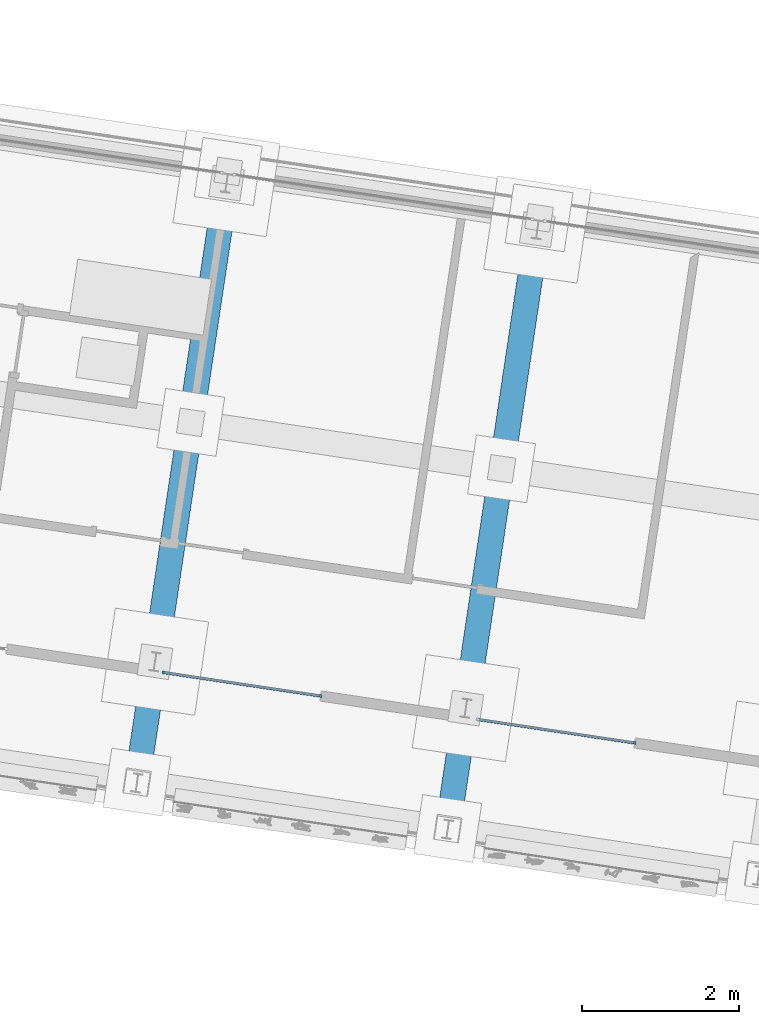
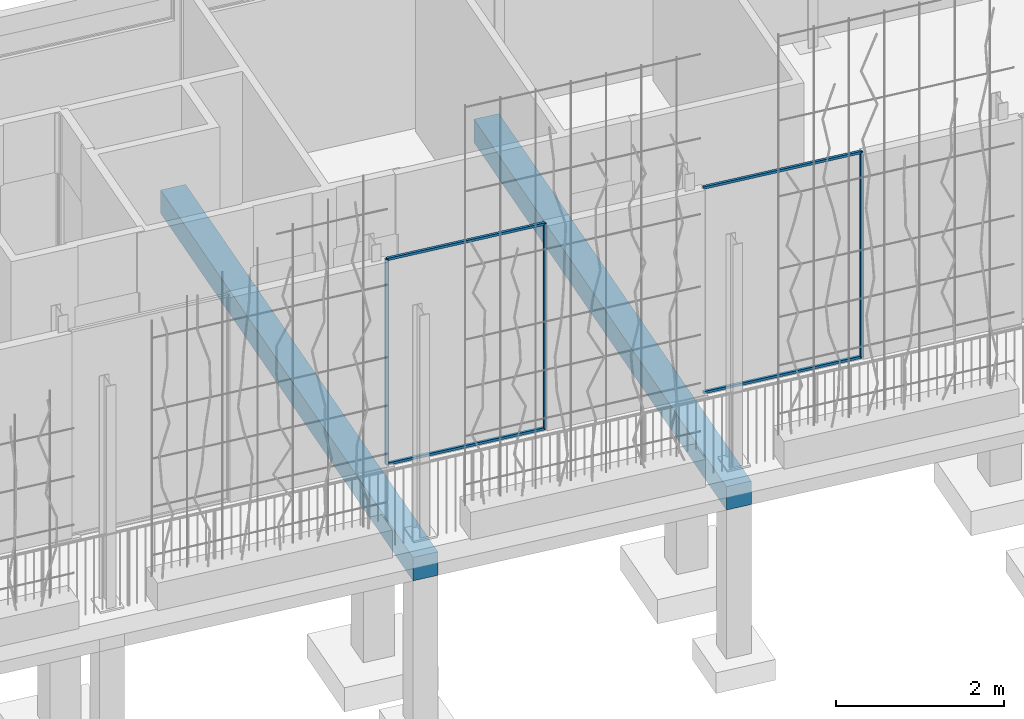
# One storey, part 83 of 143: 7 members, 2 beams, 1 element without a shape of its own.
"""IFC4 building model written with IfcOpenShell, lengths in metres."""

import ifcopenshell
import ifcopenshell.guid

model = None  # the IFC model being written
_history = None  # IfcOwnerHistory: only IFC2X3 demands one
_inside = {}  # id of a spatial element -> (the spatial element, [elements in it])
_under = {}  # id of a project, library or spatial element -> (it, [spatial elements below it])
_declared = {}  # id of a project -> (the project, [libraries it declares])
_typed = {}  # id of a type object -> (the type object, [elements of that type])
_made_of = {}  # id of a material, layer set ... -> (it, [elements and type objects made of it])


def new_model(schema):
    """Start an empty IFC model of exactly this schema.

    Asked for "IFC4X3", IfcOpenShell would pick the latest addendum, in which some entities
    have other attributes; the version numbers below select the first issue.
    IFC2X3 requires an IfcOwnerHistory on every rooted entity: one is made here for all.
    """
    global model, _history
    if schema == "IFC4X3":
        model = ifcopenshell.file(schema_version=(4, 3, 0, 0))
    else:
        model = ifcopenshell.file(schema=schema)
    _inside.clear()
    _under.clear()
    _declared.clear()
    _typed.clear()
    _made_of.clear()
    _history = None
    if model.schema == "IFC2X3":
        org = make("IfcOrganization", Name="unknown")
        user = make(
            "IfcPersonAndOrganization",
            ThePerson=make("IfcPerson", FamilyName="unknown"),
            TheOrganization=org,
        )
        app = make(
            "IfcApplication",
            ApplicationDeveloper=org,
            Version="unknown",
            ApplicationFullName="unknown",
            ApplicationIdentifier="unknown",
        )
        _history = make(
            "IfcOwnerHistory",
            OwningUser=user,
            OwningApplication=app,
            ChangeAction="ADDED",
            CreationDate=0,
        )
    return model


def make(cls, **values):
    """One entity of the class cls with the attributes given. An attribute that is None is left unset."""
    return model.create_entity(
        cls, **{name: value for name, value in values.items() if value is not None}
    )


def rooted(cls, **values):
    """An entity with a GlobalId (a new one), such as an element, a storey or a relation."""
    return make(cls, GlobalId=ifcopenshell.guid.new(), OwnerHistory=_history, **values)


def si_unit(unit_type, name, prefix=None):
    """IfcSIUnit, for example si_unit("LENGTHUNIT", "METRE", prefix="MILLI")."""
    return make("IfcSIUnit", UnitType=unit_type, Prefix=prefix, Name=name)


def assignment(units):
    """IfcUnitAssignment: the units of a project."""
    return None if units is None else make("IfcUnitAssignment", Units=units)


def point(xyz):
    """IfcCartesianPoint."""
    return None if xyz is None else make("IfcCartesianPoint", Coordinates=xyz)


def direction(xyz):
    """IfcDirection."""
    return None if xyz is None else make("IfcDirection", DirectionRatios=xyz)


def frame(location, z_axis=None, x_axis=None):
    """IfcAxis2Placement3D, a coordinate frame: its origin and axes. An axis left out is left unset."""
    return make(
        "IfcAxis2Placement3D",
        Location=point(location),
        Axis=direction(z_axis),
        RefDirection=direction(x_axis),
    )


def origin_with_axes():
    """The frame at (0, 0, 0) with the z axis (0, 0, 1) and the x axis (1, 0, 0) written out."""
    return frame((0.0, 0.0, 0.0), z_axis=(0.0, 0.0, 1.0), x_axis=(1.0, 0.0, 0.0))


def place(relative_to, where):
    """IfcLocalPlacement: puts the frame where relative to a parent placement (None: the world)."""
    return make(
        "IfcLocalPlacement", PlacementRelTo=relative_to, RelativePlacement=where
    )


def context(
    kind, dimensions, precision=None, world=None, true_north=None, identifier=None
):
    """IfcGeometricRepresentationContext, for example the 3D "Model" context."""
    return make(
        "IfcGeometricRepresentationContext",
        ContextIdentifier=identifier,
        ContextType=kind,
        CoordinateSpaceDimension=dimensions,
        Precision=precision,
        WorldCoordinateSystem=world,
        TrueNorth=true_north,
    )


def subcontext(parent, identifier, kind, view, scale=None):
    """IfcGeometricRepresentationSubContext, for example "Body" below "Model"."""
    return make(
        "IfcGeometricRepresentationSubContext",
        ContextIdentifier=identifier,
        ContextType=kind,
        ParentContext=parent,
        TargetScale=scale,
        TargetView=view,
    )


def project(units=None, contexts=None):
    """IfcProject with its units and contexts."""
    return rooted(
        "IfcProject",
        Name="project",
        RepresentationContexts=contexts,
        UnitsInContext=assignment(units),
    )


def spatial(cls, under=None, at=None, **own):
    """A site, building, storey or space (cls), placed at a placement, below another one or the project."""
    s = rooted(cls, ObjectPlacement=at, **own)
    if under is not None:
        _under.setdefault(under.id(), (under, []))[1].append(s)
    return s


def polyline(points):
    """IfcPolyline through the points."""
    return make("IfcPolyline", Points=[point(p) for p in points])


def profile(cls, at=None, kind="AREA", **sizes):
    """A parametric profile (cls). Its sizes go by their IFC names, for example OverallWidth=200.0."""
    return make(cls, ProfileType=kind, Position=at, **sizes)


def rectangle(**sizes):
    """IfcRectangleProfileDef."""
    return profile("IfcRectangleProfileDef", **sizes)


def outline(outer, holes=None, kind="AREA"):
    """IfcArbitraryClosedProfileDef: a profile drawn as a closed curve; with holes, ...WithVoids."""
    if holes is None:
        return make("IfcArbitraryClosedProfileDef", ProfileType=kind, OuterCurve=outer)
    return make(
        "IfcArbitraryProfileDefWithVoids",
        ProfileType=kind,
        OuterCurve=outer,
        InnerCurves=holes,
    )


def extrude(swept, where, along, depth):
    """IfcExtrudedAreaSolid: the profile swept, set in the frame where, extruded along a direction by depth."""
    return make(
        "IfcExtrudedAreaSolid",
        SweptArea=swept,
        Position=where,
        ExtrudedDirection=direction(along),
        Depth=depth,
    )


def shape(context_of_items, identifier, shape_type, items):
    """IfcShapeRepresentation: the items that make up one representation, for example the "Body"."""
    return make(
        "IfcShapeRepresentation",
        ContextOfItems=context_of_items,
        RepresentationIdentifier=identifier,
        RepresentationType=shape_type,
        Items=items,
    )


def material(Name=None, Category=None):
    """IfcMaterial."""
    return make("IfcMaterial", Name=Name, Category=Category)


def material_profile(
    of_material, cross_section, Name=None, Category=None, Priority=None
):
    """IfcMaterialProfile: a cross section and its material."""
    return make(
        "IfcMaterialProfile",
        Name=Name,
        Material=of_material,
        Profile=cross_section,
        Priority=Priority,
        Category=Category,
    )


def profile_set(profiles, Name=None, composite=None):
    """IfcMaterialProfileSet."""
    return make(
        "IfcMaterialProfileSet",
        Name=Name,
        MaterialProfiles=profiles,
        CompositeProfile=composite,
    )


def profile_usage(for_profile_set, cardinal=None, extent=None):
    """IfcMaterialProfileSetUsage: how a profile set lies along its element."""
    return make(
        "IfcMaterialProfileSetUsage",
        ForProfileSet=for_profile_set,
        CardinalPoint=cardinal,
        ReferenceExtent=extent,
    )


def made_of(thing, what):
    """Note that an element or type object is made of a material, layer set ...; save() writes the relation."""
    if what is not None:
        _made_of.setdefault(what.id(), (what, []))[1].append(thing)
    return thing


def type_object(cls, material=None, **own):
    """A type object (cls), such as IfcWallType, which elements share."""
    return made_of(rooted(cls, **own), material)


def element(
    cls,
    number,
    at=None,
    inside=None,
    cuts=None,
    type_object=None,
    material=None,
    context=None,
    identifier="Body",
    shape_type=None,
    held_by="IfcProductDefinitionShape",
    body=None,
    shapes=None,
    **own,
):
    """One element of the class cls, such as IfcWall. Its Tag is "e" and its number.

    at: its placement. inside: the storey or other place that contains it. cuts: it is an
    opening in that element (IfcRelVoidsElement). A single representation is given by context,
    identifier, shape_type and body (its items); several are given by shapes. held_by: the class
    of the entity that holds the representations. save() writes the other relations.
    """
    e = rooted(cls, Tag="e%d" % number, ObjectPlacement=at, **own)
    if body is not None:
        shapes = [shape(context, identifier, shape_type, body)]
    if shapes is not None:
        e.Representation = make(held_by, Representations=shapes)
    if inside is not None:
        _inside.setdefault(inside.id(), (inside, []))[1].append(e)
    if cuts is not None:
        rooted(
            "IfcRelVoidsElement", RelatingBuildingElement=cuts, RelatedOpeningElement=e
        )
    if type_object is not None:
        _typed.setdefault(type_object.id(), (type_object, []))[1].append(e)
    return made_of(e, material)


def aggregate(whole, parts):
    """IfcRelAggregates: a whole, such as a stair, and the parts it consists of."""
    return rooted("IfcRelAggregates", RelatingObject=whole, RelatedObjects=parts)


def save(model, path):
    """Write the relations noted so far, then the file.

    IfcRelAggregates (storeys below a building ...), IfcRelContainedInSpatialStructure (elements
    in a storey), IfcRelDefinesByType, IfcRelAssociatesMaterial and IfcRelDeclares: one each for
    every whole, place, type object, material and project.
    """
    for whole, parts in _under.values():
        aggregate(whole, parts)
    for where, things in _inside.values():
        rooted(
            "IfcRelContainedInSpatialStructure",
            RelatedElements=things,
            RelatingStructure=where,
        )
    for kind, things in _typed.values():
        rooted("IfcRelDefinesByType", RelatedObjects=things, RelatingType=kind)
    for what, things in _made_of.values():
        rooted("IfcRelAssociatesMaterial", RelatedObjects=things, RelatingMaterial=what)
    for by, libraries in _declared.values():
        rooted("IfcRelDeclares", RelatingContext=by, RelatedDefinitions=libraries)
    model.write(path)


model = new_model("IFC4")

# Units and contexts
model_context = context("Model", 3, precision=1e-05, world=origin_with_axes(), true_north=direction((0.0, 1.0)))
body_context = subcontext(model_context, "Body", "Model", "MODEL_VIEW")
ifc_project = project(units=[si_unit("VOLUMEUNIT", "CUBIC_METRE"), si_unit("LENGTHUNIT", "METRE"), si_unit("AREAUNIT", "SQUARE_METRE")], contexts=[model_context])

# Site, building, storey
site_placement = place(None, origin_with_axes())
site = spatial("IfcSite", under=ifc_project, at=site_placement, Name="Lares · Rua das Mercês · artigo 4771")
building_placement = place(site_placement, frame((15.0, 9.7, 15.8), z_axis=(0.0, 0.0, 1.0), x_axis=(0.989015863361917, -0.147809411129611, 0.0)))
building = spatial("IfcBuilding", under=site, at=building_placement, Name="Casa Sobreposta")
storey_placement = place(building_placement, origin_with_axes())
storey = spatial("IfcBuildingStorey", under=building, at=storey_placement, Name="00 · Habitação e estacionamento", Elevation=15.8)

# Members
ifc_material_1 = material(Name="Aço pintado / Stahl lackiert", Category="steel")
ifc_material_profile = material_profile(ifc_material_1, rectangle(XDim=0.035, YDim=0.035))
ifc_profile_set = profile_set([ifc_material_profile], Name="R0.035")
ifc_profile_usage_1 = profile_usage(ifc_profile_set)
member_type = type_object("IfcMemberType", Name="R0.035 / steel", PredefinedType="NOTDEFINED", material=ifc_profile_set)
member_1_placement = place(storey_placement, frame((12.128, 0.0, 0.0), z_axis=(0.0, 0.0, 1.0), x_axis=(1.0, 0.0, 0.0)))
element("IfcMember", 1, at=member_1_placement, inside=storey, type_object=member_type, material=ifc_profile_usage_1, Name="Folha de correr sul 6 · montante", context=body_context, shape_type="SweptSolid", body=[
    extrude(rectangle(XDim=0.035, YDim=0.035), origin_with_axes(), (0.0, 0.0, 1.0), 2.968),
])
ifc_profile_usage_2 = profile_usage(ifc_profile_set)
member_2_placement = place(storey_placement, frame((14.1493333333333, 0.0, 0.0), z_axis=(0.0, 0.0, 1.0), x_axis=(1.0, 0.0, 0.0)))
element("IfcMember", 2, at=member_2_placement, inside=storey, type_object=member_type, material=ifc_profile_usage_2, Name="Folha de correr sul 6 · montante", context=body_context, shape_type="SweptSolid", body=[
    extrude(rectangle(XDim=0.035, YDim=0.035), origin_with_axes(), (0.0, 0.0, 1.0), 2.968),
])
ifc_profile_usage_3 = profile_usage(ifc_profile_set)
member_3_placement = place(storey_placement, frame((12.128, 0.0, 0.0), z_axis=(1.0, 0.0, 0.0), x_axis=(0.0, -1.0, 0.0)))
element("IfcMember", 3, at=member_3_placement, inside=storey, type_object=member_type, material=ifc_profile_usage_3, Name="Folha de correr sul 6 · travessa", context=body_context, shape_type="SweptSolid", body=[
    extrude(rectangle(XDim=0.035, YDim=0.035), origin_with_axes(), (0.0, 0.0, 1.0), 2.02133333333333),
])
ifc_profile_usage_4 = profile_usage(ifc_profile_set)
member_4_placement = place(storey_placement, frame((12.128, 0.0, 2.968), z_axis=(1.0, 0.0, 0.0), x_axis=(0.0, -1.0, 0.0)))
element("IfcMember", 4, at=member_4_placement, inside=storey, type_object=member_type, material=ifc_profile_usage_4, Name="Folha de correr sul 6 · travessa", context=body_context, shape_type="SweptSolid", body=[
    extrude(rectangle(XDim=0.035, YDim=0.035), origin_with_axes(), (0.0, 0.0, 1.0), 2.02133333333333),
])
ifc_profile_usage_5 = profile_usage(ifc_profile_set)
member_5_placement = place(storey_placement, frame((18.192, 0.0, 0.0), z_axis=(0.0, 0.0, 1.0), x_axis=(1.0, 0.0, 0.0)))
element("IfcMember", 5, at=member_5_placement, inside=storey, type_object=member_type, material=ifc_profile_usage_5, Name="Folha de correr sul 8 · montante", context=body_context, shape_type="SweptSolid", body=[
    extrude(rectangle(XDim=0.035, YDim=0.035), origin_with_axes(), (0.0, 0.0, 1.0), 2.968),
])
ifc_profile_usage_6 = profile_usage(ifc_profile_set)
member_6_placement = place(storey_placement, frame((16.1706666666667, 0.0, 0.0), z_axis=(1.0, 0.0, 0.0), x_axis=(0.0, -1.0, 0.0)))
element("IfcMember", 6, at=member_6_placement, inside=storey, type_object=member_type, material=ifc_profile_usage_6, Name="Folha de correr sul 8 · travessa", context=body_context, shape_type="SweptSolid", body=[
    extrude(rectangle(XDim=0.035, YDim=0.035), origin_with_axes(), (0.0, 0.0, 1.0), 2.02133333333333),
])
ifc_profile_usage_7 = profile_usage(ifc_profile_set)
member_7_placement = place(storey_placement, frame((16.1706666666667, 0.0, 2.968), z_axis=(1.0, 0.0, 0.0), x_axis=(0.0, -1.0, 0.0)))
element("IfcMember", 7, at=member_7_placement, inside=storey, type_object=member_type, material=ifc_profile_usage_7, Name="Folha de correr sul 8 · travessa", context=body_context, shape_type="SweptSolid", body=[
    extrude(rectangle(XDim=0.035, YDim=0.035), origin_with_axes(), (0.0, 0.0, 1.0), 2.02133333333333),
])

# Assembly, beams
assembly_placement = place(storey_placement, origin_with_axes())
assembly = element("IfcElementAssembly", 8, at=assembly_placement, inside=storey, Name="Pódio · terraço, casa térrea e cisterna", ObjectType="CISTERN_PODIUM", PredefinedType="USERDEFINED")
ifc_material_2 = material(Name="Betão armado / Stahlbeton", Category="concrete")
beam_1_placement = place(assembly_placement, frame((0.0, 0.0, -0.59), z_axis=(0.0, 0.0, 1.0), x_axis=(1.0, 0.0, 0.0)))
beam_1 = element("IfcBeam", 9, at=beam_1_placement, material=ifc_material_2, Name="Pódio suspenso · viga transversal", context=body_context, shape_type="SweptSolid", body=[
    extrude(outline(polyline([(12.16, -1.59), (12.16, 6.59), (11.84, 6.59), (11.84, -1.59), (12.16, -1.59)])), origin_with_axes(), (0.0, 0.0, 1.0), 0.34),
])
beam_2_placement = place(assembly_placement, frame((0.0, 0.0, -0.59), z_axis=(0.0, 0.0, 1.0), x_axis=(1.0, 0.0, 0.0)))
beam_2 = element("IfcBeam", 10, at=beam_2_placement, material=ifc_material_2, Name="Pódio suspenso · viga transversal", context=body_context, shape_type="SweptSolid", body=[
    extrude(outline(polyline([(16.16, -1.59), (16.16, 6.59), (15.84, 6.59), (15.84, -1.59), (16.16, -1.59)])), origin_with_axes(), (0.0, 0.0, 1.0), 0.34),
])
aggregate(assembly, [beam_1, beam_2])

save(model, "model.ifc")
